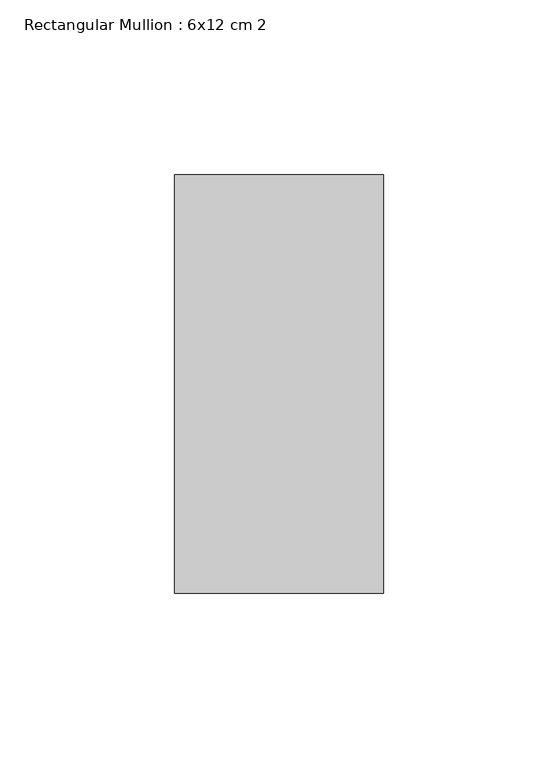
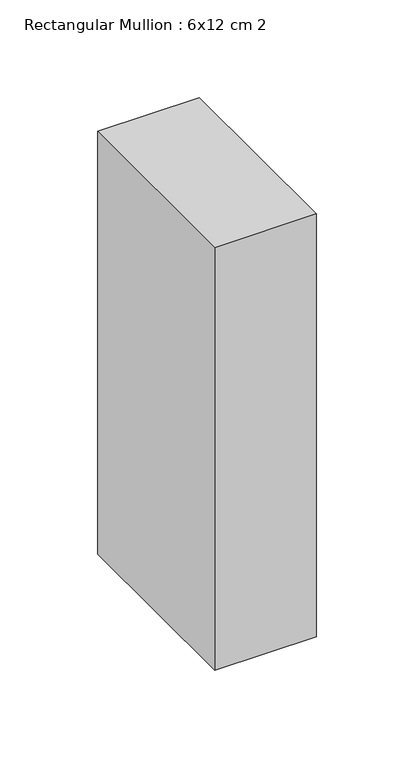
"""IFC4 building model written with IfcOpenShell, lengths in millimetres: member geometry, Rectangular Mullion : 6x12 cm 2."""

from ifc_helpers import new_model, si_unit, frame, origin, place, context, project, spatial, polyline, outline, extrude, source, transform, mapped, element, save


def rectangular_mullion_6x12_cm_2_fadf336a(model_context):
    return source(origin(), model_context, "Body", "SweptSolid", [
        extrude(outline(polyline([(0.0, 205.0), (0.0, 85.0), (-60.0, 85.0), (-60.0, 205.0), (0.0, 205.0)])), frame((0.0, 0.0, -264.4081722), z_axis=(0.0, 0.0, 1.0), x_axis=(1.0, 0.0, 0.0)), (0.0, 0.0, 1.0), 264.4081722),
    ])


if __name__ == "__main__":
    model = new_model("IFC4")
    model_context = context("Model", 3, world=origin())
    ifc_project = project(units=[si_unit("LENGTHUNIT", "METRE", prefix="MILLI")], contexts=[model_context])
    site = spatial("IfcSite", under=ifc_project)
    building = spatial("IfcBuilding", under=site)
    placement = place(None, origin())
    rectangular_mullion_6x12_cm_2_shape = rectangular_mullion_6x12_cm_2_fadf336a(model_context)
    element("IfcMember", 1, ObjectType="Rectangular Mullion : 6x12 cm 2", at=placement, inside=building, context=model_context, shape_type="MappedRepresentation", body=[
        mapped(rectangular_mullion_6x12_cm_2_shape, transform((0.0, 0.0, 0.0), x_axis=(1.0, 0.0, 0.0), y_axis=(0.0, 1.0, 0.0), z_axis=(0.0, 0.0, 1.0))),
    ])
    save(model, "model.ifc")
